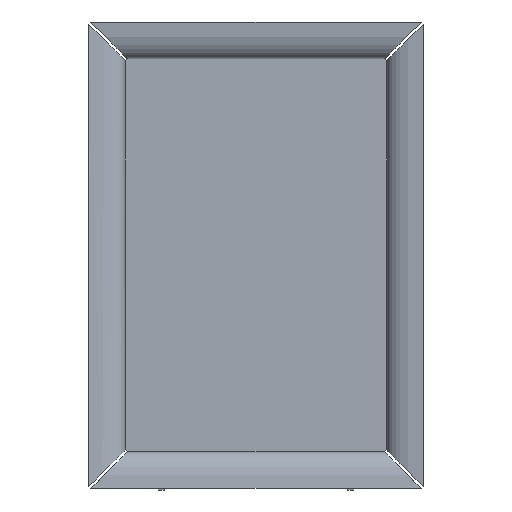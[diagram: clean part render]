
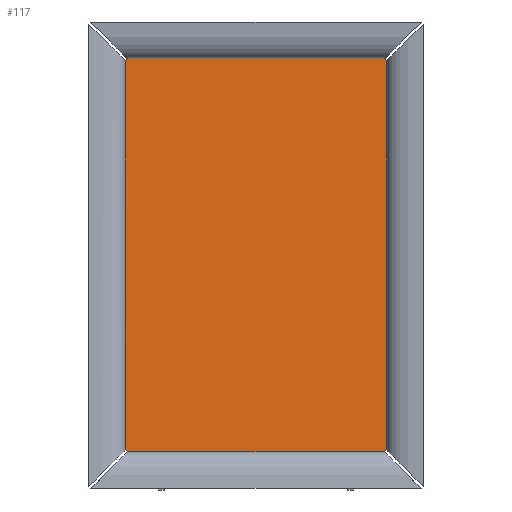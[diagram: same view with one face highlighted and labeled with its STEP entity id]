
A CAD part, top view. The second image highlights one B-rep face of the part: STEP entity #117.
In plain terms, the highlighted planar face has unit normal (0, 0, 1).
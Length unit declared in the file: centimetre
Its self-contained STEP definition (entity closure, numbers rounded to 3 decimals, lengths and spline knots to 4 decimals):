
#117=ADVANCED_FACE($,(#230),#1439,.T.);
#230=FACE_OUTER_BOUND($,#345,.T.);
#345=EDGE_LOOP($,(#775,#776,#777,#778,#779,#780,#781,#782));
#775=ORIENTED_EDGE($,*,*,#1117,.F.);
#776=ORIENTED_EDGE($,*,*,#1110,.F.);
#777=ORIENTED_EDGE($,*,*,#1116,.F.);
#778=ORIENTED_EDGE($,*,*,#1109,.F.);
#779=ORIENTED_EDGE($,*,*,#1115,.F.);
#780=ORIENTED_EDGE($,*,*,#1101,.F.);
#781=ORIENTED_EDGE($,*,*,#1103,.F.);
#782=ORIENTED_EDGE($,*,*,#1111,.F.);
#1101=EDGE_CURVE($,#1292,#1305,#1645,.T.);
#1103=EDGE_CURVE($,#1293,#1292,#1647,.T.);
#1109=EDGE_CURVE($,#1300,#1299,#1653,.T.);
#1110=EDGE_CURVE($,#1302,#1301,#1654,.T.);
#1111=EDGE_CURVE($,#1303,#1293,#1655,.T.);
#1115=EDGE_CURVE($,#1305,#1300,#1659,.T.);
#1116=EDGE_CURVE($,#1299,#1302,#1660,.T.);
#1117=EDGE_CURVE($,#1301,#1303,#1661,.T.);
#1292=VERTEX_POINT($,#3260);
#1293=VERTEX_POINT($,#3261);
#1299=VERTEX_POINT($,#3267);
#1300=VERTEX_POINT($,#3268);
#1301=VERTEX_POINT($,#3269);
#1302=VERTEX_POINT($,#3270);
#1303=VERTEX_POINT($,#3271);
#1305=VERTEX_POINT($,#3273);
#1439=PLANE($,#1848);
#1645=B_SPLINE_CURVE_WITH_KNOTS($,1,(#3158,#3159),.UNSPECIFIED.,.F.,.F.,
(2,2),(0.85,162.95),.UNSPECIFIED.);
#1647=B_SPLINE_CURVE_WITH_KNOTS($,1,(#3162,#3163),.UNSPECIFIED.,.F.,.F.,
(2,2),(-1.,0.),.UNSPECIFIED.);
#1653=B_SPLINE_CURVE_WITH_KNOTS($,1,(#3178,#3179),.UNSPECIFIED.,.F.,.F.,
(2,2),(0.85,107.95),.UNSPECIFIED.);
#1654=B_SPLINE_CURVE_WITH_KNOTS($,1,(#3180,#3181),.UNSPECIFIED.,.F.,.F.,
(2,2),(0.85,162.95),.UNSPECIFIED.);
#1655=B_SPLINE_CURVE_WITH_KNOTS($,1,(#3182,#3183),.UNSPECIFIED.,.F.,.F.,
(2,2),(0.85,107.95),.UNSPECIFIED.);
#1659=B_SPLINE_CURVE_WITH_KNOTS($,1,(#3190,#3191),.UNSPECIFIED.,.F.,.F.,
(2,2),(0.,1.),.UNSPECIFIED.);
#1660=B_SPLINE_CURVE_WITH_KNOTS($,1,(#3192,#3193),.UNSPECIFIED.,.F.,.F.,
(2,2),(0.,1.),.UNSPECIFIED.);
#1661=B_SPLINE_CURVE_WITH_KNOTS($,1,(#3194,#3195),.UNSPECIFIED.,.F.,.F.,
(2,2),(0.,1.),.UNSPECIFIED.);
#1848=AXIS2_PLACEMENT_3D($,#3222,#1907,$);
#1907=DIRECTION($,(0.,0.,1.));
#3158=CARTESIAN_POINT($,(0.,0.85,3.5));
#3159=CARTESIAN_POINT($,(0.,162.95,3.5));
#3162=CARTESIAN_POINT($,(0.85,0.,3.5));
#3163=CARTESIAN_POINT($,(0.,0.85,3.5));
#3178=CARTESIAN_POINT($,(0.85,163.8,3.5));
#3179=CARTESIAN_POINT($,(107.95,163.8,3.5));
#3180=CARTESIAN_POINT($,(108.8,162.95,3.5));
#3181=CARTESIAN_POINT($,(108.8,0.85,3.5));
#3182=CARTESIAN_POINT($,(107.95,0.,3.5));
#3183=CARTESIAN_POINT($,(0.85,0.,3.5));
#3190=CARTESIAN_POINT($,(0.,162.95,3.5));
#3191=CARTESIAN_POINT($,(0.85,163.8,3.5));
#3192=CARTESIAN_POINT($,(107.95,163.8,3.5));
#3193=CARTESIAN_POINT($,(108.8,162.95,3.5));
#3194=CARTESIAN_POINT($,(108.8,0.85,3.5));
#3195=CARTESIAN_POINT($,(107.95,0.,3.5));
#3222=CARTESIAN_POINT($,(0.,0.,3.5));
#3260=CARTESIAN_POINT($,(0.,0.85,3.5));
#3261=CARTESIAN_POINT($,(0.85,0.,3.5));
#3267=CARTESIAN_POINT($,(107.95,163.8,3.5));
#3268=CARTESIAN_POINT($,(0.85,163.8,3.5));
#3269=CARTESIAN_POINT($,(108.8,0.85,3.5));
#3270=CARTESIAN_POINT($,(108.8,162.95,3.5));
#3271=CARTESIAN_POINT($,(107.95,0.,3.5));
#3273=CARTESIAN_POINT($,(0.,162.95,3.5));
